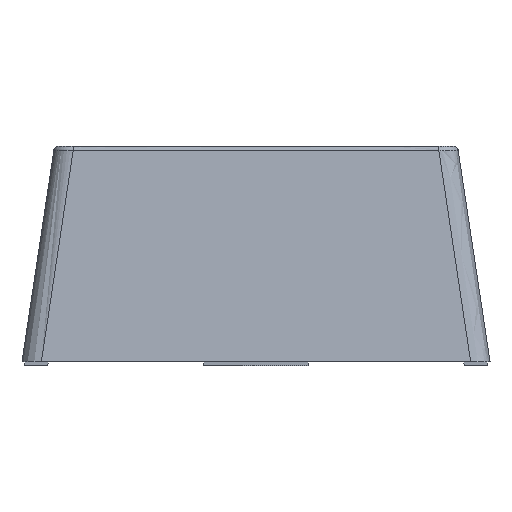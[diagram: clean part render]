
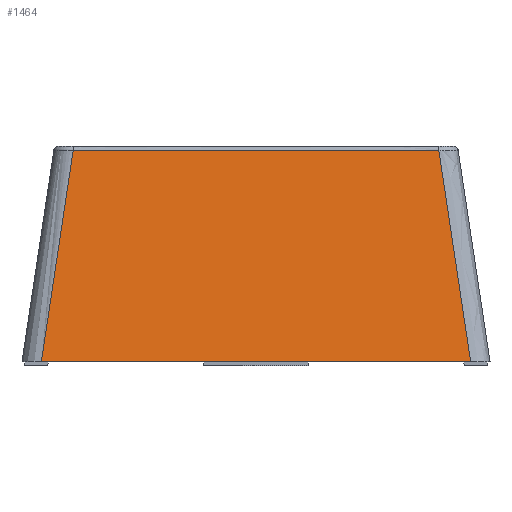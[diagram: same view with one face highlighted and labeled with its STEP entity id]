
A CAD part, left-side view. The second image highlights one B-rep face of the part: STEP entity #1464.
In plain terms, the highlighted free-form (B-spline) face has degree [1, 1] with [2, 2] control points.
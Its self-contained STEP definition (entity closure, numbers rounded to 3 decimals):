
#806 = VERTEX_POINT('',#807);
#807 = CARTESIAN_POINT('',(-17.521,7.032,
    -0.176));
#896 = VERTEX_POINT('',#897);
#897 = CARTESIAN_POINT('',(-17.521,-7.032,
    -0.176));
#984 = EDGE_CURVE('',#896,#806,#985,.T.);
#985 = ( BOUNDED_CURVE() B_SPLINE_CURVE(9,(#986,#987,#988,#989,#990,#991
    ,#992,#993,#994,#995,#996,#997,#998,#999,#1000,#1001,#1002,#1003,
    #1004,#1005,#1006,#1007,#1008,#1009,#1010,#1011),.UNSPECIFIED.,.F.,
.F.) B_SPLINE_CURVE_WITH_KNOTS((10,8,8,10),(49.839,
49.864,63.896,63.92),.UNSPECIFIED.) CURVE() 
GEOMETRIC_REPRESENTATION_ITEM() RATIONAL_B_SPLINE_CURVE((1.,1.,1.,1.,1.,
    1.,1.,1.,1.,1.,1.,1.,1.,1.,1.,1.,1.,1.,1.,1.,1.,1.,1.,1.,1.,1.)) 
REPRESENTATION_ITEM('') );
#986 = CARTESIAN_POINT('',(-17.521,-7.032,
    -0.176));
#987 = CARTESIAN_POINT('',(-17.521,-7.029,
    -0.176));
#988 = CARTESIAN_POINT('',(-17.521,-7.026,
    -0.176));
#989 = CARTESIAN_POINT('',(-17.521,-7.023,
    -0.176));
#990 = CARTESIAN_POINT('',(-17.521,-7.02,
    -0.176));
#991 = CARTESIAN_POINT('',(-17.521,-7.018,
    -0.176));
#992 = CARTESIAN_POINT('',(-17.521,-7.015,
    -0.176));
#993 = CARTESIAN_POINT('',(-17.521,-7.012,-0.176
    ));
#994 = CARTESIAN_POINT('',(-17.521,-7.009,
    -0.176));
#995 = CARTESIAN_POINT('',(-17.521,-5.426,
    -0.176));
#996 = CARTESIAN_POINT('',(-17.521,-3.879,
    -0.176));
#997 = CARTESIAN_POINT('',(-17.521,-2.326,
    -0.176));
#998 = CARTESIAN_POINT('',(-17.521,-0.778,
    -0.176));
#999 = CARTESIAN_POINT('',(-17.521,0.778,
    -0.176));
#1000 = CARTESIAN_POINT('',(-17.521,2.326,
    -0.176));
#1001 = CARTESIAN_POINT('',(-17.521,3.879,
    -0.176));
#1002 = CARTESIAN_POINT('',(-17.521,5.426,
    -0.176));
#1003 = CARTESIAN_POINT('',(-17.521,7.009,
    -0.176));
#1004 = CARTESIAN_POINT('',(-17.521,7.012,
    -0.176));
#1005 = CARTESIAN_POINT('',(-17.521,7.015,
    -0.176));
#1006 = CARTESIAN_POINT('',(-17.521,7.018,
    -0.176));
#1007 = CARTESIAN_POINT('',(-17.521,7.02,
    -0.176));
#1008 = CARTESIAN_POINT('',(-17.521,7.023,
    -0.176));
#1009 = CARTESIAN_POINT('',(-17.521,7.026,
    -0.176));
#1010 = CARTESIAN_POINT('',(-17.521,7.029,
    -0.176));
#1011 = CARTESIAN_POINT('',(-17.521,7.032,
    -0.176));
#1332 = EDGE_CURVE('',#806,#1333,#1335,.T.);
#1333 = VERTEX_POINT('',#1334);
#1334 = CARTESIAN_POINT('',(-18.5,8.255,-8.3));
#1335 = B_SPLINE_CURVE_WITH_KNOTS('',3,(#1336,#1337,#1338,#1339,#1340,
    #1341,#1342,#1343),.UNSPECIFIED.,.F.,.F.,(4,2,2,4),(-0.627,
    -0.11,8.365,8.883),.UNSPECIFIED.);
#1336 = CARTESIAN_POINT('',(-17.439,6.929,0.508));
#1337 = CARTESIAN_POINT('',(-17.459,6.954,0.339));
#1338 = CARTESIAN_POINT('',(-17.48,6.98,0.169));
#1339 = CARTESIAN_POINT('',(-17.834,7.423,
    -2.774));
#1340 = CARTESIAN_POINT('',(-18.168,7.841,
    -5.548));
#1341 = CARTESIAN_POINT('',(-18.523,8.284,
    -8.491));
#1342 = CARTESIAN_POINT('',(-18.543,8.309,
    -8.661));
#1343 = CARTESIAN_POINT('',(-18.564,8.335,
    -8.83));
#1400 = EDGE_CURVE('',#896,#1401,#1403,.T.);
#1401 = VERTEX_POINT('',#1402);
#1402 = CARTESIAN_POINT('',(-18.5,-8.255,-8.3));
#1403 = B_SPLINE_CURVE_WITH_KNOTS('',3,(#1404,#1405,#1406,#1407,#1408,
    #1409,#1410,#1411),.UNSPECIFIED.,.F.,.F.,(4,2,2,4),(-0.627,
    -0.11,8.365,8.883),.UNSPECIFIED.);
#1404 = CARTESIAN_POINT('',(-17.439,-6.929,0.508));
#1405 = CARTESIAN_POINT('',(-17.459,-6.954,0.339));
#1406 = CARTESIAN_POINT('',(-17.48,-6.98,0.169));
#1407 = CARTESIAN_POINT('',(-17.834,-7.423,
    -2.774));
#1408 = CARTESIAN_POINT('',(-18.168,-7.841,
    -5.548));
#1409 = CARTESIAN_POINT('',(-18.523,-8.284,
    -8.491));
#1410 = CARTESIAN_POINT('',(-18.543,-8.309,
    -8.661));
#1411 = CARTESIAN_POINT('',(-18.564,-8.335,
    -8.83));
#1464 = ADVANCED_FACE('',(#1465),#1476,.T.);
#1465 = FACE_BOUND('',#1466,.T.);
#1466 = EDGE_LOOP('',(#1467,#1468,#1469,#1470));
#1467 = ORIENTED_EDGE('',*,*,#1400,.F.);
#1468 = ORIENTED_EDGE('',*,*,#984,.T.);
#1469 = ORIENTED_EDGE('',*,*,#1332,.T.);
#1470 = ORIENTED_EDGE('',*,*,#1471,.F.);
#1471 = EDGE_CURVE('',#1401,#1333,#1472,.T.);
#1472 = LINE('',#1473,#1474);
#1473 = CARTESIAN_POINT('',(-18.5,-9.,-8.3));
#1474 = VECTOR('',#1475,1.);
#1475 = DIRECTION('',(0.,1.,0.));
#1476 = B_SPLINE_SURFACE_WITH_KNOTS('',1,1,(
    (#1477,#1478)
    ,(#1479,#1480
    )),.UNSPECIFIED.,.F.,.F.,.F.,(2,2),(2,2),(0.,18.),(0.,1.),
  .PIECEWISE_BEZIER_KNOTS.);
#1477 = CARTESIAN_POINT('',(-17.5,-7.75,0.));
#1478 = CARTESIAN_POINT('',(-18.5,-9.,-8.3));
#1479 = CARTESIAN_POINT('',(-17.5,7.75,0.));
#1480 = CARTESIAN_POINT('',(-18.5,9.,-8.3));
